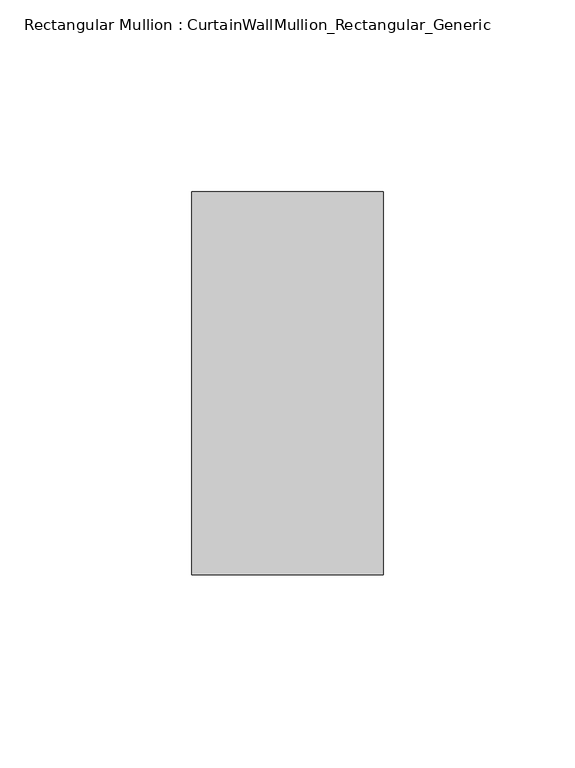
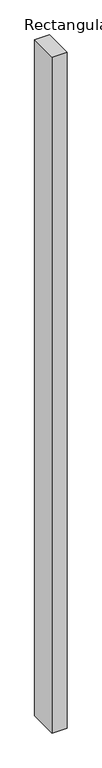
"""IFC4 building model written with IfcOpenShell, lengths in millimetres: member geometry, Rectangular Mullion : CurtainWallMullion_Rectangular_Generic."""

from ifc_helpers import new_model, si_unit, frame, origin, place, context, project, spatial, polyline, outline, extrude, source, transform, mapped, element, save


def rectangular_mullion_curtainwallmullion_rectangular_generic_5675a122(model_context):
    return source(origin(), model_context, "Body", "SweptSolid", [
        extrude(outline(polyline([(25.0, 50.0), (25.0, -50.0), (-25.0, -50.0), (-25.0, 50.0), (25.0, 50.0)])), frame((0.0, 0.0, -2375.0), z_axis=(0.0, 0.0, 1.0), x_axis=(1.0, 0.0, 0.0)), (0.0, 0.0, 1.0), 2375.0),
    ])


if __name__ == "__main__":
    model = new_model("IFC4")
    model_context = context("Model", 3, world=origin())
    ifc_project = project(units=[si_unit("LENGTHUNIT", "METRE", prefix="MILLI")], contexts=[model_context])
    site = spatial("IfcSite", under=ifc_project)
    building = spatial("IfcBuilding", under=site)
    placement = place(None, origin())
    rectangular_mullion_curtainwallmullion_rectangular_generic_shape = rectangular_mullion_curtainwallmullion_rectangular_generic_5675a122(model_context)
    element("IfcMember", 1, ObjectType="Rectangular Mullion : CurtainWallMullion_Rectangular_Generic", at=placement, inside=building, context=model_context, shape_type="MappedRepresentation", body=[
        mapped(rectangular_mullion_curtainwallmullion_rectangular_generic_shape, transform((0.0, 0.0, 0.0), x_axis=(1.0, 0.0, 0.0), y_axis=(0.0, 1.0, 0.0), z_axis=(0.0, 0.0, 1.0))),
    ])
    save(model, "model.ifc")
